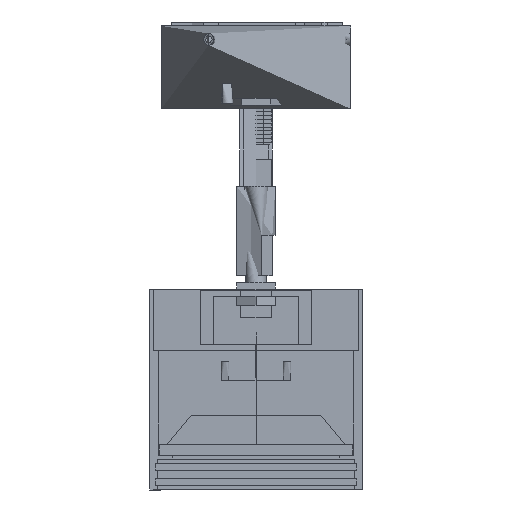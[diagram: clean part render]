
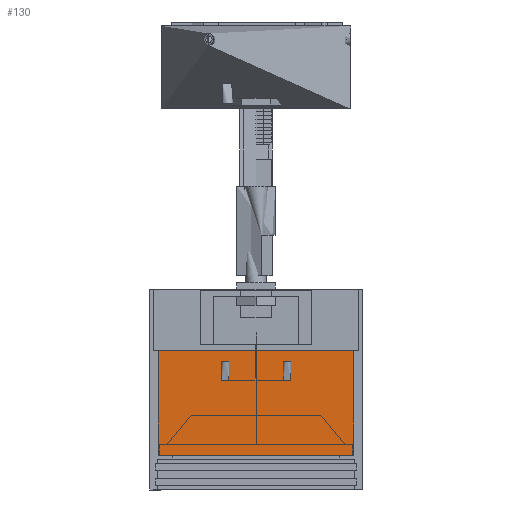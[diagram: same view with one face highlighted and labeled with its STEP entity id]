
A CAD part, front view. The second image highlights one B-rep face of the part: STEP entity #130.
In plain terms, the highlighted free-form (B-spline) face has degree [1, 2] with [2, 5] control points.
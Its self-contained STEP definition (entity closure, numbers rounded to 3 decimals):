
#130=ADVANCED_FACE('',(#403),#7816,.T.);
#403=FACE_OUTER_BOUND('',#676,.T.);
#676=EDGE_LOOP('',(#967,#968,#969,#970));
#967=ORIENTED_EDGE('',*,*,#6513,.T.);
#968=ORIENTED_EDGE('',*,*,#6514,.T.);
#969=ORIENTED_EDGE('',*,*,#6515,.T.);
#970=ORIENTED_EDGE('',*,*,#6516,.T.);
#2149=PCURVE('',#7816,#3331);
#2150=PCURVE('',#7816,#3332);
#2151=PCURVE('',#7816,#3333);
#2152=PCURVE('',#7816,#3334);
#2153=PCURVE('',#7817,#3335);
#2219=PCURVE('',#7833,#3401);
#2221=PCURVE('',#7834,#3403);
#2223=PCURVE('',#7834,#3405);
#3331=DEFINITIONAL_REPRESENTATION('',(#4513),#16811);
#3332=DEFINITIONAL_REPRESENTATION('',(#4515),#16811);
#3333=DEFINITIONAL_REPRESENTATION('',(#4516),#16811);
#3334=DEFINITIONAL_REPRESENTATION('',(#4518),#16811);
#3335=DEFINITIONAL_REPRESENTATION('',(#4519),#16811);
#3401=DEFINITIONAL_REPRESENTATION('',(#4618),#16811);
#3403=DEFINITIONAL_REPRESENTATION('',(#4621),#16811);
#3405=DEFINITIONAL_REPRESENTATION('',(#4623),#16811);
#4513=B_SPLINE_CURVE_WITH_KNOTS('',1,(#8535,#8536),.UNSPECIFIED.,.F.,.F.,
(2,2),(-59.,0.),.UNSPECIFIED.);
#4514=B_SPLINE_CURVE_WITH_KNOTS('',1,(#8537,#8538),.UNSPECIFIED.,.F.,.F.,
(2,2),(90.854,118.),.UNSPECIFIED.);
#4515=B_SPLINE_CURVE_WITH_KNOTS('',1,(#8539,#8540),.UNSPECIFIED.,.F.,.F.,
(2,2),(90.854,118.),.UNSPECIFIED.);
#4516=B_SPLINE_CURVE_WITH_KNOTS('',1,(#8546,#8547),.UNSPECIFIED.,.F.,.F.,
(2,2),(0.,59.),.UNSPECIFIED.);
#4517=B_SPLINE_CURVE_WITH_KNOTS('',1,(#8548,#8549),.UNSPECIFIED.,.F.,.F.,
(2,2),(-118.,-90.854),.UNSPECIFIED.);
#4518=B_SPLINE_CURVE_WITH_KNOTS('',1,(#8550,#8551),.UNSPECIFIED.,.F.,.F.,
(2,2),(-118.,-90.854),.UNSPECIFIED.);
#4519=B_SPLINE_CURVE_WITH_KNOTS('',1,(#8552,#8553),.UNSPECIFIED.,.F.,.F.,
(2,2),(0.,59.),.UNSPECIFIED.);
#4618=B_SPLINE_CURVE_WITH_KNOTS('',1,(#8830,#8831),.UNSPECIFIED.,.F.,.F.,
(2,2),(-59.,0.),.UNSPECIFIED.);
#4621=B_SPLINE_CURVE_WITH_KNOTS('',1,(#8836,#8837),.UNSPECIFIED.,.F.,.F.,
(2,2),(-118.,-90.854),.UNSPECIFIED.);
#4623=B_SPLINE_CURVE_WITH_KNOTS('',1,(#8845,#8846),.UNSPECIFIED.,.F.,.F.,
(2,2),(90.854,118.),.UNSPECIFIED.);
#5920=SURFACE_CURVE('',#7106,(#2149,#2219),.PCURVE_S1.);
#5921=SURFACE_CURVE('',#4514,(#2150,#2223),.PCURVE_S1.);
#5922=SURFACE_CURVE('',#7107,(#2151,#2153),.PCURVE_S1.);
#5923=SURFACE_CURVE('',#4517,(#2152,#2221),.PCURVE_S1.);
#6513=EDGE_CURVE('',#7494,#7477,#5920,.T.);
#6514=EDGE_CURVE('',#7477,#7476,#5921,.T.);
#6515=EDGE_CURVE('',#7476,#7495,#5922,.T.);
#6516=EDGE_CURVE('',#7495,#7494,#5923,.T.);
#7106=(
BOUNDED_CURVE()
B_SPLINE_CURVE(2,(#8530,#8531,#8532,#8533,#8534),.UNSPECIFIED.,.F.,.F.)
B_SPLINE_CURVE_WITH_KNOTS((3,2,3),(-59.,-29.5,
0.),.UNSPECIFIED.)
CURVE()
GEOMETRIC_REPRESENTATION_ITEM()
RATIONAL_B_SPLINE_CURVE((1.,0.707,1.,0.707,1.))
REPRESENTATION_ITEM('')
);
#7107=(
BOUNDED_CURVE()
B_SPLINE_CURVE(2,(#8541,#8542,#8543,#8544,#8545),.UNSPECIFIED.,.F.,.F.)
B_SPLINE_CURVE_WITH_KNOTS((3,2,3),(0.,29.5,59.),
 .UNSPECIFIED.)
CURVE()
GEOMETRIC_REPRESENTATION_ITEM()
RATIONAL_B_SPLINE_CURVE((1.,0.707,1.,0.707,1.))
REPRESENTATION_ITEM('')
);
#7476=VERTEX_POINT('',#8494);
#7477=VERTEX_POINT('',#8495);
#7494=VERTEX_POINT('',#8512);
#7495=VERTEX_POINT('',#8513);
#7816=(
BOUNDED_SURFACE()
B_SPLINE_SURFACE(1,2,((#8134,#8135,#8136,#8137,#8138),(#8139,#8140,#8141,
#8142,#8143)),.UNSPECIFIED.,.F.,.F.,.F.)
B_SPLINE_SURFACE_WITH_KNOTS((2,2),(3,2,3),(90.854,118.),
(0.,29.5,59.),.UNSPECIFIED.)
GEOMETRIC_REPRESENTATION_ITEM()
RATIONAL_B_SPLINE_SURFACE(((1.,0.707,1.,0.707,1.),
(1.,0.707,1.,0.707,1.)))
REPRESENTATION_ITEM('')
SURFACE()
);
#7817=(
BOUNDED_SURFACE()
B_SPLINE_SURFACE(1,2,((#8144,#8145,#8146,#8147,#8148),(#8149,#8150,#8151,
#8152,#8153)),.UNSPECIFIED.,.F.,.F.,.F.)
B_SPLINE_SURFACE_WITH_KNOTS((2,2),(3,2,3),(0.,1.25),(0.,29.5,
59.),.UNSPECIFIED.)
GEOMETRIC_REPRESENTATION_ITEM()
RATIONAL_B_SPLINE_SURFACE(((1.,0.707,1.,0.707,1.),
(1.,0.707,1.,0.707,1.)))
REPRESENTATION_ITEM('')
SURFACE()
);
#7833=(
BOUNDED_SURFACE()
B_SPLINE_SURFACE(1,2,((#8304,#8305,#8306,#8307,#8308),(#8309,#8310,#8311,
#8312,#8313)),.UNSPECIFIED.,.F.,.F.,.F.)
B_SPLINE_SURFACE_WITH_KNOTS((2,2),(3,2,3),(87.104,90.854),
(0.,29.5,59.),.UNSPECIFIED.)
GEOMETRIC_REPRESENTATION_ITEM()
RATIONAL_B_SPLINE_SURFACE(((1.,0.707,1.,0.707,1.),
(1.,0.707,1.,0.707,1.)))
REPRESENTATION_ITEM('')
SURFACE()
);
#7834=(
BOUNDED_SURFACE()
B_SPLINE_SURFACE(1,2,((#8314,#8315,#8316,#8317,#8318),(#8319,#8320,#8321,
#8322,#8323)),.UNSPECIFIED.,.F.,.F.,.F.)
B_SPLINE_SURFACE_WITH_KNOTS((2,2),(3,2,3),(90.854,118.),
(59.,88.5,118.),.UNSPECIFIED.)
GEOMETRIC_REPRESENTATION_ITEM()
RATIONAL_B_SPLINE_SURFACE(((1.,0.707,1.,0.707,1.),
(1.,0.707,1.,0.707,1.)))
REPRESENTATION_ITEM('')
SURFACE()
);
#8134=CARTESIAN_POINT('',(25.25,0.,9.));
#8135=CARTESIAN_POINT('',(25.25,25.25,9.));
#8136=CARTESIAN_POINT('',(0.,25.25,9.));
#8137=CARTESIAN_POINT('',(-25.25,25.25,9.));
#8138=CARTESIAN_POINT('',(-25.25,0.,9.));
#8139=CARTESIAN_POINT('',(25.25,0.,36.145));
#8140=CARTESIAN_POINT('',(25.25,25.25,36.145));
#8141=CARTESIAN_POINT('',(0.,25.25,36.145));
#8142=CARTESIAN_POINT('',(-25.25,25.25,36.145));
#8143=CARTESIAN_POINT('',(-25.25,0.,36.145));
#8144=CARTESIAN_POINT('',(25.25,0.,36.145));
#8145=CARTESIAN_POINT('',(25.25,25.25,36.145));
#8146=CARTESIAN_POINT('',(0.,25.25,36.145));
#8147=CARTESIAN_POINT('',(-25.25,25.25,36.145));
#8148=CARTESIAN_POINT('',(-25.25,0.,36.145));
#8149=CARTESIAN_POINT('',(26.5,0.,36.145));
#8150=CARTESIAN_POINT('',(26.5,26.5,36.145));
#8151=CARTESIAN_POINT('',(0.,26.5,36.145));
#8152=CARTESIAN_POINT('',(-26.5,26.5,36.145));
#8153=CARTESIAN_POINT('',(-26.5,0.,36.145));
#8304=CARTESIAN_POINT('',(21.5,0.,9.));
#8305=CARTESIAN_POINT('',(21.5,21.5,9.));
#8306=CARTESIAN_POINT('',(0.,21.5,9.));
#8307=CARTESIAN_POINT('',(-21.5,21.5,9.));
#8308=CARTESIAN_POINT('',(-21.5,0.,9.));
#8309=CARTESIAN_POINT('',(25.25,0.,9.));
#8310=CARTESIAN_POINT('',(25.25,25.25,9.));
#8311=CARTESIAN_POINT('',(0.,25.25,9.));
#8312=CARTESIAN_POINT('',(-25.25,25.25,9.));
#8313=CARTESIAN_POINT('',(-25.25,0.,9.));
#8314=CARTESIAN_POINT('',(-25.25,0.,9.));
#8315=CARTESIAN_POINT('',(-25.25,-25.25,9.));
#8316=CARTESIAN_POINT('',(0.,-25.25,9.));
#8317=CARTESIAN_POINT('',(25.25,-25.25,9.));
#8318=CARTESIAN_POINT('',(25.25,0.,9.));
#8319=CARTESIAN_POINT('',(-25.25,0.,36.145));
#8320=CARTESIAN_POINT('',(-25.25,-25.25,36.145));
#8321=CARTESIAN_POINT('',(0.,-25.25,36.145));
#8322=CARTESIAN_POINT('',(25.25,-25.25,36.145));
#8323=CARTESIAN_POINT('',(25.25,0.,36.145));
#8494=CARTESIAN_POINT('',(25.25,0.,36.145));
#8495=CARTESIAN_POINT('',(25.25,0.,9.));
#8512=CARTESIAN_POINT('',(-25.25,0.,9.));
#8513=CARTESIAN_POINT('',(-25.25,0.,36.145));
#8530=CARTESIAN_POINT('',(-25.25,0.,9.));
#8531=CARTESIAN_POINT('',(-25.25,25.25,9.));
#8532=CARTESIAN_POINT('',(0.,25.25,9.));
#8533=CARTESIAN_POINT('',(25.25,25.25,9.));
#8534=CARTESIAN_POINT('',(25.25,0.,9.));
#8535=CARTESIAN_POINT('',(90.854,59.));
#8536=CARTESIAN_POINT('',(90.854,0.));
#8537=CARTESIAN_POINT('',(25.25,0.,9.));
#8538=CARTESIAN_POINT('',(25.25,0.,36.145));
#8539=CARTESIAN_POINT('',(90.854,0.));
#8540=CARTESIAN_POINT('',(118.,0.));
#8541=CARTESIAN_POINT('',(25.25,0.,36.145));
#8542=CARTESIAN_POINT('',(25.25,25.25,36.145));
#8543=CARTESIAN_POINT('',(0.,25.25,36.145));
#8544=CARTESIAN_POINT('',(-25.25,25.25,36.145));
#8545=CARTESIAN_POINT('',(-25.25,0.,36.145));
#8546=CARTESIAN_POINT('',(118.,0.));
#8547=CARTESIAN_POINT('',(118.,59.));
#8548=CARTESIAN_POINT('',(-25.25,0.,36.145));
#8549=CARTESIAN_POINT('',(-25.25,0.,9.));
#8550=CARTESIAN_POINT('',(118.,59.));
#8551=CARTESIAN_POINT('',(90.854,59.));
#8552=CARTESIAN_POINT('',(0.,0.));
#8553=CARTESIAN_POINT('',(0.,59.));
#8830=CARTESIAN_POINT('',(90.854,59.));
#8831=CARTESIAN_POINT('',(90.854,0.));
#8836=CARTESIAN_POINT('',(118.,59.));
#8837=CARTESIAN_POINT('',(90.854,59.));
#8845=CARTESIAN_POINT('',(90.854,118.));
#8846=CARTESIAN_POINT('',(118.,118.));
#16811=(
GEOMETRIC_REPRESENTATION_CONTEXT(2)
PARAMETRIC_REPRESENTATION_CONTEXT()
REPRESENTATION_CONTEXT('pspace','')
);
